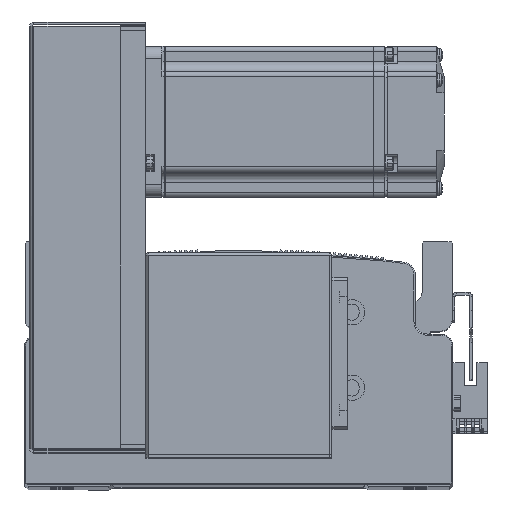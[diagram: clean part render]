
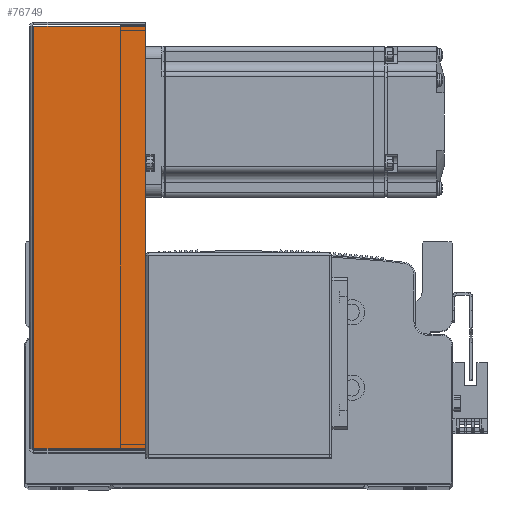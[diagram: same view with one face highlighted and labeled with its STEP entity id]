
A CAD part, top view. The second image highlights one B-rep face of the part: STEP entity #76749.
In plain terms, the highlighted planar face has unit normal (0, 0, 1) as drawn and (0, 0, -1) by its records, which use the part's own axes.
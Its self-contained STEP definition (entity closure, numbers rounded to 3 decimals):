
#22879 = EDGE_CURVE ( 'NONE', #30672, #30548, #49952, .T. ) ;
#23036 = EDGE_CURVE ( 'NONE', #30524, #30630, #50137, .T. ) ;
#23045 = EDGE_CURVE ( 'NONE', #30672, #30524, #50173, .T. ) ;
#23059 = EDGE_CURVE ( 'NONE', #30548, #30630, #50141, .T. ) ;
#24141 = CARTESIAN_POINT ( 'NONE',  ( -83.793, 0., -40.5 ) ) ;
#24179 = DIRECTION ( 'NONE',  ( 0., 1., 0. ) ) ;
#26893 = CARTESIAN_POINT ( 'NONE',  ( 83.793, 0.737, -40.5 ) ) ;
#26939 = CARTESIAN_POINT ( 'NONE',  ( 83.793, 45., -40.5 ) ) ;
#26948 = CARTESIAN_POINT ( 'NONE',  ( -83.793, 45., -40.5 ) ) ;
#27018 = CARTESIAN_POINT ( 'NONE',  ( -83.793, 0.737, -40.5 ) ) ;
#27539 = EDGE_LOOP ( 'NONE', ( #36243, #36197, #36144, #36261 ) ) ;
#30524 = VERTEX_POINT ( 'NONE', #26893 ) ;
#30548 = VERTEX_POINT ( 'NONE', #26948 ) ;
#30630 = VERTEX_POINT ( 'NONE', #26939 ) ;
#30672 = VERTEX_POINT ( 'NONE', #27018 ) ;
#36144 = ORIENTED_EDGE ( 'NONE', *, *, #23059, .T. ) ;
#36197 = ORIENTED_EDGE ( 'NONE', *, *, #22879, .T. ) ;
#36243 = ORIENTED_EDGE ( 'NONE', *, *, #23045, .F. ) ;
#36261 = ORIENTED_EDGE ( 'NONE', *, *, #23036, .F. ) ;
#41787 = CARTESIAN_POINT ( 'NONE',  ( 83.793, 0., -40.5 ) ) ;
#41814 = DIRECTION ( 'NONE',  ( 0., 1., 0. ) ) ;
#41902 = DIRECTION ( 'NONE',  ( 1., 0., 0. ) ) ;
#41908 = DIRECTION ( 'NONE',  ( 1., 0., 0. ) ) ;
#41947 = CARTESIAN_POINT ( 'NONE',  ( 0., 0.737, -40.5 ) ) ;
#41976 = CARTESIAN_POINT ( 'NONE',  ( 84.5, 45., -40.5 ) ) ;
#49952 = LINE ( 'NONE', #24141, #49954 ) ;
#49954 = VECTOR ( 'NONE', #24179, 1000. ) ;
#50137 = LINE ( 'NONE', #41787, #50156 ) ;
#50141 = LINE ( 'NONE', #41976, #50179 ) ;
#50156 = VECTOR ( 'NONE', #41814, 1000. ) ;
#50163 = VECTOR ( 'NONE', #41908, 1000. ) ;
#50173 = LINE ( 'NONE', #41947, #50163 ) ;
#50179 = VECTOR ( 'NONE', #41902, 1000. ) ;
#59659 = FACE_OUTER_BOUND ( 'NONE', #27539, .T. ) ;
#61258 = AXIS2_PLACEMENT_3D ( 'NONE', #64936, #64907, #64939 ) ;
#64791 = PLANE ( 'NONE',  #61258 ) ;
#64907 = DIRECTION ( 'NONE',  ( 0., 0., 1. ) ) ;
#64936 = CARTESIAN_POINT ( 'NONE',  ( 0., 0., -40.5 ) ) ;
#64939 = DIRECTION ( 'NONE',  ( 0., -1., 0. ) ) ;
#76749 = ADVANCED_FACE ( 'NONE', ( #59659 ), #64791, .F. ) ;
